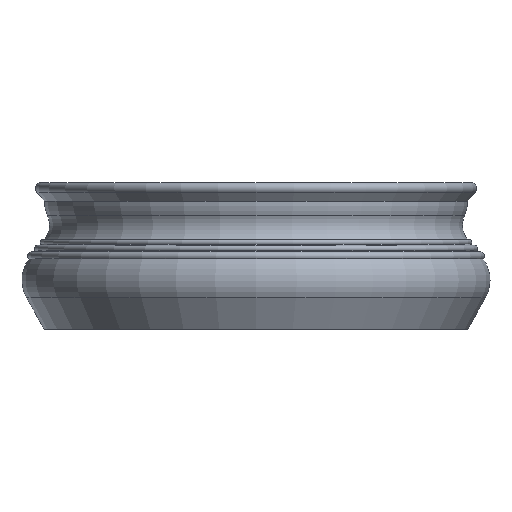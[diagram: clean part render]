
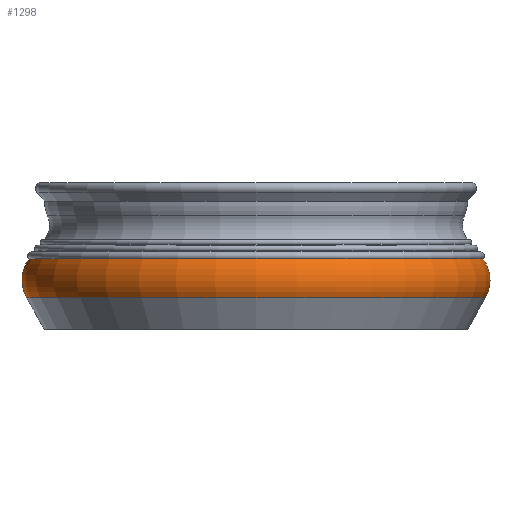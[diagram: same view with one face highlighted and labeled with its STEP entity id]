
A CAD part, front view. The second image highlights one B-rep face of the part: STEP entity #1298.
In plain terms, the highlighted toroidal (fillet/blend) face has major radius 168.45 mm and minor radius 30.55 mm.
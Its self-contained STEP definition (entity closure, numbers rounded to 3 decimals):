
#22=TOROIDAL_SURFACE('',#1475,168.45,30.55);
#164=FACE_OUTER_BOUND('',#280,.T.);
#280=EDGE_LOOP('',(#1187,#1188,#1189,#1190));
#517=CIRCLE('',#1439,195.128);
#539=CIRCLE('',#1476,193.152);
#540=CIRCLE('',#1477,30.55);
#642=VERTEX_POINT('',#2198);
#657=VERTEX_POINT('',#2257);
#805=EDGE_CURVE('',#642,#642,#517,.T.);
#834=EDGE_CURVE('',#657,#657,#539,.T.);
#835=EDGE_CURVE('',#657,#642,#540,.T.);
#1187=ORIENTED_EDGE('',*,*,#834,.F.);
#1188=ORIENTED_EDGE('',*,*,#835,.T.);
#1189=ORIENTED_EDGE('',*,*,#805,.T.);
#1190=ORIENTED_EDGE('',*,*,#835,.F.);
#1298=ADVANCED_FACE('',(#164),#22,.T.);
#1439=AXIS2_PLACEMENT_3D('',#2199,#1805,#1806);
#1475=AXIS2_PLACEMENT_3D('',#2256,#1884,#1885);
#1476=AXIS2_PLACEMENT_3D('',#2258,#1886,#1887);
#1477=AXIS2_PLACEMENT_3D('',#2259,#1888,#1889);
#1805=DIRECTION('center_axis',(0.,0.,1.));
#1806=DIRECTION('ref_axis',(1.,0.,0.));
#1884=DIRECTION('center_axis',(0.,0.,1.));
#1885=DIRECTION('ref_axis',(1.,0.,0.));
#1886=DIRECTION('center_axis',(0.,0.,1.));
#1887=DIRECTION('ref_axis',(1.,0.,0.));
#1888=DIRECTION('center_axis',(0.,-1.,0.));
#1889=DIRECTION('ref_axis',(-1.,0.,0.));
#2198=CARTESIAN_POINT('',(-195.128,0.,27.115));
#2199=CARTESIAN_POINT('Origin',(0.,0.,27.115));
#2256=CARTESIAN_POINT('Origin',(0.,0.,42.));
#2257=CARTESIAN_POINT('',(-193.152,0.,59.976));
#2258=CARTESIAN_POINT('Origin',(0.,0.,59.976));
#2259=CARTESIAN_POINT('Origin',(-168.45,0.,
42.));
